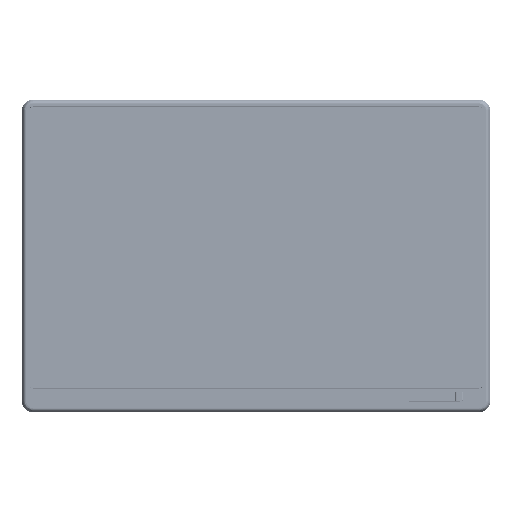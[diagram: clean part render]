
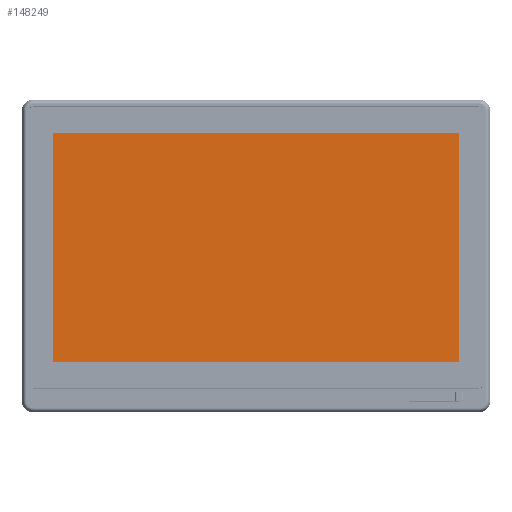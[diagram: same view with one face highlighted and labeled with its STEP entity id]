
A CAD part, top view. The second image highlights one B-rep face of the part: STEP entity #148249.
In plain terms, the highlighted planar face has unit normal (0, 0, 1).
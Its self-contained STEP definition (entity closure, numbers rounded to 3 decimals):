
#13571 = VECTOR ( 'NONE', #97292, 1000. ) ;
#22495 = VECTOR ( 'NONE', #256304, 1000. ) ;
#25140 = AXIS2_PLACEMENT_3D ( 'NONE', #269211, #79878, #300820 ) ;
#32384 = LINE ( 'NONE', #97281, #22495 ) ;
#33632 = CARTESIAN_POINT ( 'NONE',  ( 190.95, 104.11, 7.6 ) ) ;
#46401 = VERTEX_POINT ( 'NONE', #33632 ) ;
#62491 = ORIENTED_EDGE ( 'NONE', *, *, #232836, .T. ) ;
#79878 = DIRECTION ( 'NONE',  ( 0., 0., 1. ) ) ;
#86974 = LINE ( 'NONE', #157803, #161199 ) ;
#97281 = CARTESIAN_POINT ( 'NONE',  ( -190.94, 104.11, 7.6 ) ) ;
#97292 = DIRECTION ( 'NONE',  ( 0., 1., 0. ) ) ;
#107759 = CARTESIAN_POINT ( 'NONE',  ( -190.94, 104.11, 7.6 ) ) ;
#110184 = PLANE ( 'NONE',  #25140 ) ;
#139564 = DIRECTION ( 'NONE',  ( 0., -1., 0. ) ) ;
#142400 = VECTOR ( 'NONE', #139564, 1000. ) ;
#148249 = ADVANCED_FACE ( 'NONE', ( #271518 ), #110184, .T. ) ;
#154035 = ORIENTED_EDGE ( 'NONE', *, *, #193062, .T. ) ;
#156251 = EDGE_LOOP ( 'NONE', ( #254573, #376791, #62491, #154035 ) ) ;
#157803 = CARTESIAN_POINT ( 'NONE',  ( -190.94, -110.7, 7.6 ) ) ;
#159601 = CARTESIAN_POINT ( 'NONE',  ( 190.95, 104.11, 7.6 ) ) ;
#161199 = VECTOR ( 'NONE', #313706, 1000. ) ;
#193062 = EDGE_CURVE ( 'NONE', #46401, #257324, #32384, .T. ) ;
#208571 = CARTESIAN_POINT ( 'NONE',  ( -190.94, -110.7, 7.6 ) ) ;
#218749 = VERTEX_POINT ( 'NONE', #208571 ) ;
#231858 = EDGE_CURVE ( 'NONE', #257324, #218749, #404153, .T. ) ;
#232836 = EDGE_CURVE ( 'NONE', #327071, #46401, #265421, .T. ) ;
#233389 = EDGE_CURVE ( 'NONE', #218749, #327071, #86974, .T. ) ;
#254573 = ORIENTED_EDGE ( 'NONE', *, *, #231858, .T. ) ;
#256304 = DIRECTION ( 'NONE',  ( -1., 0., 0. ) ) ;
#257324 = VERTEX_POINT ( 'NONE', #382002 ) ;
#265421 = LINE ( 'NONE', #159601, #13571 ) ;
#269211 = CARTESIAN_POINT ( 'NONE',  ( 0., 0., 7.6 ) ) ;
#271518 = FACE_OUTER_BOUND ( 'NONE', #156251, .T. ) ;
#291516 = CARTESIAN_POINT ( 'NONE',  ( 190.95, -110.7, 7.6 ) ) ;
#300820 = DIRECTION ( 'NONE',  ( 1., 0., 0. ) ) ;
#313706 = DIRECTION ( 'NONE',  ( 1., 0., 0. ) ) ;
#327071 = VERTEX_POINT ( 'NONE', #291516 ) ;
#376791 = ORIENTED_EDGE ( 'NONE', *, *, #233389, .T. ) ;
#382002 = CARTESIAN_POINT ( 'NONE',  ( -190.94, 104.11, 7.6 ) ) ;
#404153 = LINE ( 'NONE', #107759, #142400 ) ;
